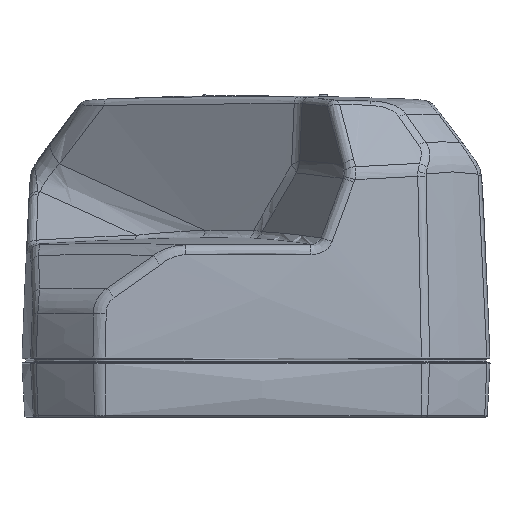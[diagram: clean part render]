
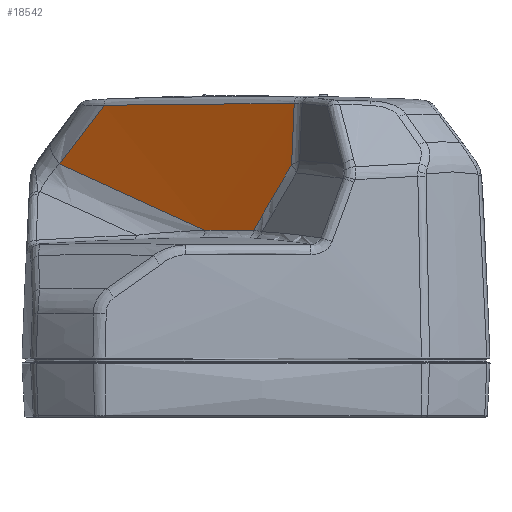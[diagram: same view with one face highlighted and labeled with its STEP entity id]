
A CAD part, left-side view. The second image highlights one B-rep face of the part: STEP entity #18542.
In plain terms, the highlighted conical face has half-angle 3 degrees and reference radius 1004.77 mm.
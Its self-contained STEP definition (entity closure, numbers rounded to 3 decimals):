
#220=ELLIPSE('',#19899,44.772,1.218);
#890=CONICAL_SURFACE('',#19897,1004.768,0.052);
#2111=FACE_OUTER_BOUND('',#3260,.T.);
#3260=EDGE_LOOP('',(#15521,#15522,#15523,#15524,#15525,#15526));
#4193=CIRCLE('',#19898,351.998);
#5164=B_SPLINE_CURVE_WITH_KNOTS('',3,(#78982,#78983,#78984,#78985),
 .UNSPECIFIED.,.F.,.F.,(4,4),(0.,1.),.UNSPECIFIED.);
#5167=B_SPLINE_CURVE_WITH_KNOTS('',3,(#79091,#79092,#79093,#79094,#79095,
#79096),.UNSPECIFIED.,.F.,.F.,(4,1,1,4),(0.,0.333,0.667,
1.),.UNSPECIFIED.);
#5168=B_SPLINE_CURVE_WITH_KNOTS('',3,(#79099,#79100,#79101,#79102,#79103,
#79104,#79105,#79106,#79107,#79108,#79109,#79110,#79111,#79112,#79113,#79114,
#79115,#79116,#79117,#79118,#79119,#79120,#79121,#79122,#79123,#79124,#79125,
#79126,#79127,#79128,#79129,#79130,#79131,#79132,#79133,#79134,#79135,#79136,
#79137,#79138,#79139,#79140,#79141,#79142,#79143,#79144,#79145,#79146,#79147,
#79148,#79149,#79150,#79151,#79152,#79153,#79154,#79155,#79156,#79157,#79158,
#79159,#79160,#79161,#79162,#79163,#79164),.UNSPECIFIED.,.F.,.F.,(4,1,1,
1,1,1,1,1,1,1,1,1,1,1,1,1,1,1,1,1,1,1,1,1,1,1,1,1,1,1,1,1,1,1,1,1,1,1,1,
1,1,1,1,1,1,1,1,1,1,1,1,1,1,1,1,1,1,1,1,1,1,1,1,4),(0.,0.039,
0.075,0.107,0.138,0.166,0.192,
0.217,0.24,0.262,0.282,0.302,
0.32,0.338,0.354,0.37,0.385,
0.4,0.414,0.428,0.441,0.454,
0.466,0.478,0.49,0.501,0.513,
0.524,0.535,0.546,0.557,0.568,
0.579,0.59,0.6,0.611,0.622,
0.633,0.644,0.655,0.665,0.676,
0.687,0.698,0.709,0.72,0.731,
0.743,0.754,0.766,0.778,0.79,
0.803,0.816,0.829,0.843,0.857,
0.872,0.888,0.904,0.921,0.94,
0.959,1.),.UNSPECIFIED.);
#5169=B_SPLINE_CURVE_WITH_KNOTS('',3,(#79169,#79170,#79171,#79172),
 .UNSPECIFIED.,.F.,.F.,(4,4),(0.,1.),.UNSPECIFIED.);
#8341=VERTEX_POINT('',#78780);
#8344=VERTEX_POINT('',#78976);
#8347=VERTEX_POINT('',#79082);
#8348=VERTEX_POINT('',#79098);
#8349=VERTEX_POINT('',#79165);
#8350=VERTEX_POINT('',#79167);
#10886=EDGE_CURVE('',#8344,#8341,#5164,.T.);
#10890=EDGE_CURVE('',#8347,#8344,#5167,.T.);
#10891=EDGE_CURVE('',#8341,#8348,#5168,.T.);
#10892=EDGE_CURVE('',#8349,#8347,#4193,.T.);
#10893=EDGE_CURVE('',#8350,#8349,#220,.T.);
#10894=EDGE_CURVE('',#8348,#8350,#5169,.T.);
#15521=ORIENTED_EDGE('',*,*,#10891,.F.);
#15522=ORIENTED_EDGE('',*,*,#10886,.F.);
#15523=ORIENTED_EDGE('',*,*,#10890,.F.);
#15524=ORIENTED_EDGE('',*,*,#10892,.F.);
#15525=ORIENTED_EDGE('',*,*,#10893,.F.);
#15526=ORIENTED_EDGE('',*,*,#10894,.F.);
#18542=ADVANCED_FACE('',(#2111),#890,.F.);
#19897=AXIS2_PLACEMENT_3D('',#79097,#22481,#22482);
#19898=AXIS2_PLACEMENT_3D('',#79166,#22483,#22484);
#19899=AXIS2_PLACEMENT_3D('',#79168,#22485,#22486);
#22481=DIRECTION('center_axis',(0.,0.,1.));
#22482=DIRECTION('ref_axis',(0.686,0.727,0.));
#22483=DIRECTION('center_axis',(-0.731,0.554,0.399));
#22484=DIRECTION('ref_axis',(0.321,-0.236,0.917));
#22485=DIRECTION('center_axis',(-0.395,0.852,0.344));
#22486=DIRECTION('ref_axis',(-0.313,-0.477,0.821));
#78780=CARTESIAN_POINT('',(4.303,17.474,28.239));
#78976=CARTESIAN_POINT('',(7.466,22.392,21.746));
#78982=CARTESIAN_POINT('Ctrl Pts',(7.466,22.392,21.746));
#78983=CARTESIAN_POINT('Ctrl Pts',(6.449,20.79,23.955));
#78984=CARTESIAN_POINT('Ctrl Pts',(5.394,19.149,26.12));
#78985=CARTESIAN_POINT('Ctrl Pts',(4.303,17.474,28.239));
#79082=CARTESIAN_POINT('',(-4.879,6.352,14.418));
#79091=CARTESIAN_POINT('Ctrl Pts',(-4.879,6.352,14.418));
#79092=CARTESIAN_POINT('Ctrl Pts',(-3.489,8.119,15.248));
#79093=CARTESIAN_POINT('Ctrl Pts',(-0.721,11.664,
16.898));
#79094=CARTESIAN_POINT('Ctrl Pts',(3.394,17.011,19.341));
#79095=CARTESIAN_POINT('Ctrl Pts',(6.113,20.595,20.948));
#79096=CARTESIAN_POINT('Ctrl Pts',(7.466,22.392,21.746));
#79097=CARTESIAN_POINT('Origin',(-806.244,611.851,21.485));
#79098=CARTESIAN_POINT('',(-11.504,-3.519,28.454));
#79099=CARTESIAN_POINT('Ctrl Pts',(4.303,17.474,28.239));
#79100=CARTESIAN_POINT('Ctrl Pts',(4.1,17.196,28.253));
#79101=CARTESIAN_POINT('Ctrl Pts',(3.714,16.667,28.279));
#79102=CARTESIAN_POINT('Ctrl Pts',(3.158,15.909,28.314));
#79103=CARTESIAN_POINT('Ctrl Pts',(2.649,15.215,28.345));
#79104=CARTESIAN_POINT('Ctrl Pts',(2.176,14.573,28.371));
#79105=CARTESIAN_POINT('Ctrl Pts',(1.735,13.974,28.394));
#79106=CARTESIAN_POINT('Ctrl Pts',(1.323,13.416,28.415));
#79107=CARTESIAN_POINT('Ctrl Pts',(0.937,12.894,28.433));
#79108=CARTESIAN_POINT('Ctrl Pts',(0.574,12.404,28.448));
#79109=CARTESIAN_POINT('Ctrl Pts',(0.233,11.943,28.463));
#79110=CARTESIAN_POINT('Ctrl Pts',(-0.089,11.509,
28.475));
#79111=CARTESIAN_POINT('Ctrl Pts',(-0.394,11.099,
28.486));
#79112=CARTESIAN_POINT('Ctrl Pts',(-0.684,10.71,
28.496));
#79113=CARTESIAN_POINT('Ctrl Pts',(-0.959,10.341,28.505));
#79114=CARTESIAN_POINT('Ctrl Pts',(-1.221,9.989,28.513));
#79115=CARTESIAN_POINT('Ctrl Pts',(-1.471,9.654,28.521));
#79116=CARTESIAN_POINT('Ctrl Pts',(-1.711,9.333,28.527));
#79117=CARTESIAN_POINT('Ctrl Pts',(-1.942,9.025,28.533));
#79118=CARTESIAN_POINT('Ctrl Pts',(-2.164,8.728,28.538));
#79119=CARTESIAN_POINT('Ctrl Pts',(-2.378,8.443,28.543));
#79120=CARTESIAN_POINT('Ctrl Pts',(-2.585,8.166,28.547));
#79121=CARTESIAN_POINT('Ctrl Pts',(-2.786,7.898,28.551));
#79122=CARTESIAN_POINT('Ctrl Pts',(-2.982,7.638,28.555));
#79123=CARTESIAN_POINT('Ctrl Pts',(-3.173,7.384,28.558));
#79124=CARTESIAN_POINT('Ctrl Pts',(-3.359,7.136,28.561));
#79125=CARTESIAN_POINT('Ctrl Pts',(-3.543,6.892,28.563));
#79126=CARTESIAN_POINT('Ctrl Pts',(-3.723,6.653,28.566));
#79127=CARTESIAN_POINT('Ctrl Pts',(-3.901,6.417,28.568));
#79128=CARTESIAN_POINT('Ctrl Pts',(-4.077,6.184,28.57));
#79129=CARTESIAN_POINT('Ctrl Pts',(-4.251,5.953,28.571));
#79130=CARTESIAN_POINT('Ctrl Pts',(-4.424,5.723,28.573));
#79131=CARTESIAN_POINT('Ctrl Pts',(-4.597,5.495,28.574));
#79132=CARTESIAN_POINT('Ctrl Pts',(-4.769,5.267,28.575));
#79133=CARTESIAN_POINT('Ctrl Pts',(-4.941,5.04,28.576));
#79134=CARTESIAN_POINT('Ctrl Pts',(-5.113,4.813,28.576));
#79135=CARTESIAN_POINT('Ctrl Pts',(-5.284,4.587,28.576));
#79136=CARTESIAN_POINT('Ctrl Pts',(-5.456,4.36,28.577));
#79137=CARTESIAN_POINT('Ctrl Pts',(-5.628,4.134,28.576));
#79138=CARTESIAN_POINT('Ctrl Pts',(-5.8,3.907,28.576));
#79139=CARTESIAN_POINT('Ctrl Pts',(-5.972,3.681,28.576));
#79140=CARTESIAN_POINT('Ctrl Pts',(-6.145,3.454,28.575));
#79141=CARTESIAN_POINT('Ctrl Pts',(-6.317,3.227,28.574));
#79142=CARTESIAN_POINT('Ctrl Pts',(-6.49,3.,28.573));
#79143=CARTESIAN_POINT('Ctrl Pts',(-6.664,2.772,28.572));
#79144=CARTESIAN_POINT('Ctrl Pts',(-6.839,2.542,28.57));
#79145=CARTESIAN_POINT('Ctrl Pts',(-7.016,2.311,28.569));
#79146=CARTESIAN_POINT('Ctrl Pts',(-7.194,2.077,28.567));
#79147=CARTESIAN_POINT('Ctrl Pts',(-7.375,1.84,28.564));
#79148=CARTESIAN_POINT('Ctrl Pts',(-7.559,1.6,28.562));
#79149=CARTESIAN_POINT('Ctrl Pts',(-7.746,1.355,28.559));
#79150=CARTESIAN_POINT('Ctrl Pts',(-7.938,1.104,28.556));
#79151=CARTESIAN_POINT('Ctrl Pts',(-8.134,0.848,28.553));
#79152=CARTESIAN_POINT('Ctrl Pts',(-8.336,0.585,
28.549));
#79153=CARTESIAN_POINT('Ctrl Pts',(-8.544,0.314,28.545));
#79154=CARTESIAN_POINT('Ctrl Pts',(-8.759,0.035,
28.54));
#79155=CARTESIAN_POINT('Ctrl Pts',(-8.981,-0.255,
28.535));
#79156=CARTESIAN_POINT('Ctrl Pts',(-9.212,-0.555,
28.529));
#79157=CARTESIAN_POINT('Ctrl Pts',(-9.453,-0.868,28.523));
#79158=CARTESIAN_POINT('Ctrl Pts',(-9.705,-1.194,28.516));
#79159=CARTESIAN_POINT('Ctrl Pts',(-9.968,-1.536,28.508));
#79160=CARTESIAN_POINT('Ctrl Pts',(-10.244,-1.894,
28.5));
#79161=CARTESIAN_POINT('Ctrl Pts',(-10.535,-2.27,
28.49));
#79162=CARTESIAN_POINT('Ctrl Pts',(-10.956,-2.814,
28.475));
#79163=CARTESIAN_POINT('Ctrl Pts',(-11.281,-3.233,
28.463));
#79164=CARTESIAN_POINT('Ctrl Pts',(-11.503,-3.519,
28.454));
#79165=CARTESIAN_POINT('',(-8.964,0.986,14.393));
#79166=CARTESIAN_POINT('Origin',(-117.828,89.55,-308.418));
#79167=CARTESIAN_POINT('',(-11.732,-3.233,21.661));
#79168=CARTESIAN_POINT('Origin',(-11.518,-1.574,17.801));
#79169=CARTESIAN_POINT('Ctrl Pts',(-11.504,-3.519,28.454));
#79170=CARTESIAN_POINT('Ctrl Pts',(-11.579,-3.424,
26.19));
#79171=CARTESIAN_POINT('Ctrl Pts',(-11.656,-3.328,
23.925));
#79172=CARTESIAN_POINT('Ctrl Pts',(-11.731,-3.233,
21.661));
